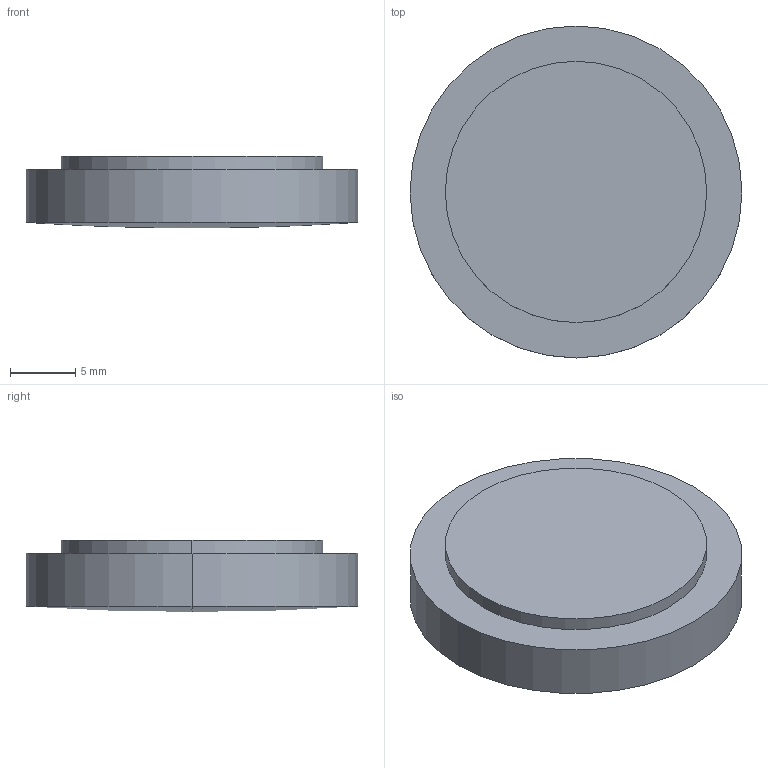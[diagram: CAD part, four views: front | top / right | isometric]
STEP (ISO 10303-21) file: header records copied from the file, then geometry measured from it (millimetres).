
FILE_DESCRIPTION(('STEP AP214'),'1');
FILE_NAME('LLF-25475.STEP','2020-03-09T17:41:26',(' '),(' '),'Spatial InterOp 3D',' ',' ');
FILE_SCHEMA(('AUTOMOTIVE_DESIGN { 1 0 10303 214 1 1 1 1 }'));
Length unit declared in the file: millimetre
Products named in the file (1): 1
Bounding box: 25.4 x 25.4 x 5.5 mm (x, y, z)
Volume: 2488.2 mm3; surface area: 2030.8 mm2
Topology: 2 solids, 2 shells, 9 faces, 16 edges, 9 vertices
Faces by surface type: cylinder 4, plane 3, sphere 2
Entity records: 229 total; most frequent: DIRECTION 46, CARTESIAN_POINT 34, ORIENTED_EDGE 28, AXIS2_PLACEMENT_3D 21, EDGE_CURVE 14, CIRCLE 10, ADVANCED_FACE 9, FACE_OUTER_BOUND 9
